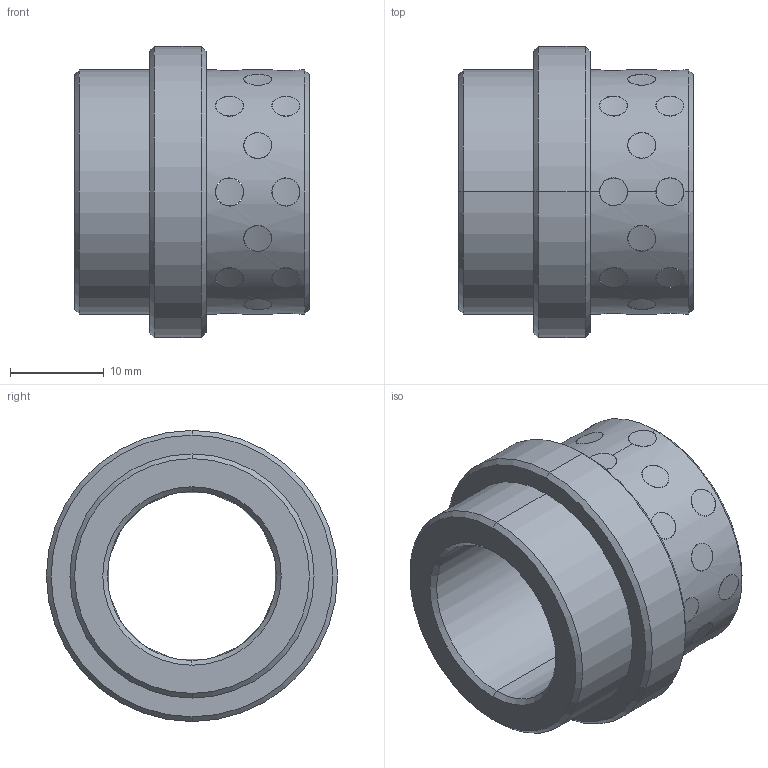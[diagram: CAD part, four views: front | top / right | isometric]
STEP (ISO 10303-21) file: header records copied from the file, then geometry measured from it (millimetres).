
FILE_DESCRIPTION((''),'2;1');
FILE_NAME('G31218017','2017-12-30T',('MANU'),(''),'PRO/ENGINEER BY PARAMETRIC TECHNOLOGY CORPORATION, 2012130','PRO/ENGINEER BY PARAMETRIC TECHNOLOGY CORPORATION, 2012130','');
FILE_SCHEMA(('CONFIG_CONTROL_DESIGN'));
Length unit declared in the file: millimetre
Products named in the file (1): G31218017
Bounding box: 25 x 31 x 31 mm (x, y, z)
Volume: 8173.4 mm3; surface area: 6203.7 mm2
Topology: 25 solids, 25 shells, 168 faces, 360 edges, 236 vertices
Faces by surface type: cylinder 152, cone 12, plane 4
Entity records: 7322 total; most frequent: CARTESIAN_POINT 3956, ORIENTED_EDGE 720, DIRECTION 516, EDGE_CURVE 360, VERTEX_POINT 236, EDGE_LOOP 212, B_SPLINE_CURVE_WITH_KNOTS 208, AXIS2_PLACEMENT_3D 196
